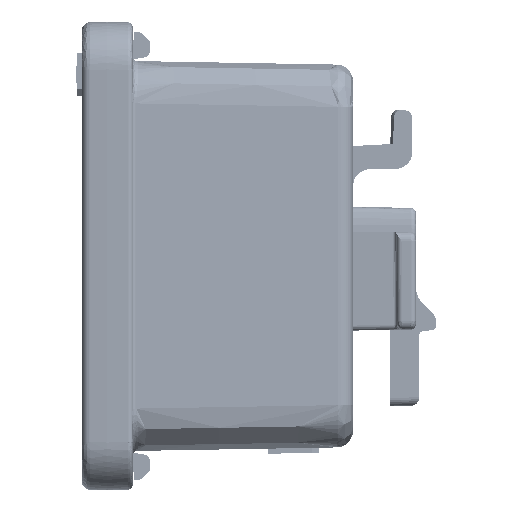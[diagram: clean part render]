
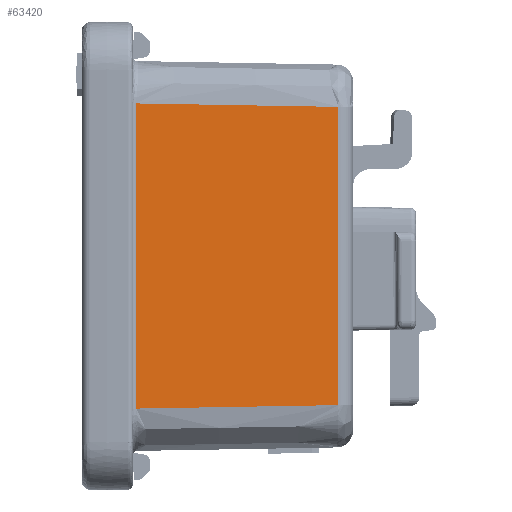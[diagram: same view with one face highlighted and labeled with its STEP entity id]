
A CAD part, left-side view. The second image highlights one B-rep face of the part: STEP entity #63420.
In plain terms, the highlighted cylindrical face has radius 111.466 mm (diameter 222.932 mm), a partial arc.
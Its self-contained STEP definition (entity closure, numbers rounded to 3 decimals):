
#2899 = CARTESIAN_POINT ( 'NONE',  ( -86.426, 0.86, 8.794 ) ) ;
#5100 = EDGE_CURVE ( 'NONE', #130333, #72418, #93645, .T. ) ;
#5425 = FACE_OUTER_BOUND ( 'NONE', #126768, .T. ) ;
#6015 = B_SPLINE_CURVE_WITH_KNOTS ( 'NONE', 3,
 ( #157757, #143882, #132660, #109123 ),
 .UNSPECIFIED., .F., .F.,
 ( 4, 4 ),
 ( 0., 1. ),
 .UNSPECIFIED. ) ;
#9224 = CARTESIAN_POINT ( 'NONE',  ( -86.426, 0.86, -8.794 ) ) ;
#17514 = CARTESIAN_POINT ( 'NONE',  ( -87.457, 12.778, -8.997 ) ) ;
#19109 = LINE ( 'NONE', #120733, #95651 ) ;
#20984 = DIRECTION ( 'NONE',  ( 0., 0., 1. ) ) ;
#28385 = CARTESIAN_POINT ( 'NONE',  ( -87.457, 12.778, -8.997 ) ) ;
#29973 = CARTESIAN_POINT ( 'NONE',  ( -86.982, 4.811, -8.862 ) ) ;
#38194 = EDGE_CURVE ( 'NONE', #130195, #130333, #103993, .T. ) ;
#39338 = DIRECTION ( 'NONE',  ( 0., 0., 1. ) ) ;
#39854 = CARTESIAN_POINT ( 'NONE',  ( 23.949, 16.419, -8.4 ) ) ;
#40384 = DIRECTION ( 'NONE',  ( 1., 0., 0. ) ) ;
#42237 = CARTESIAN_POINT ( 'NONE',  ( -87.327, 8.791, -8.929 ) ) ;
#49205 = VERTEX_POINT ( 'NONE', #113780 ) ;
#55242 = EDGE_CURVE ( 'NONE', #130195, #49205, #19109, .T. ) ;
#55605 = CARTESIAN_POINT ( 'NONE',  ( -86.426, 0.86, -8.794 ) ) ;
#56000 = ORIENTED_EDGE ( 'NONE', *, *, #5100, .T. ) ;
#58134 = ORIENTED_EDGE ( 'NONE', *, *, #123375, .T. ) ;
#61548 = AXIS2_PLACEMENT_3D ( 'NONE', #39854, #39338, #40384 ) ;
#63420 = ADVANCED_FACE ( 'NONE', ( #5425 ), #156452, .T. ) ;
#72418 = VERTEX_POINT ( 'NONE', #2899 ) ;
#74313 = DIRECTION ( 'NONE',  ( 0., 0., 1. ) ) ;
#75449 = ORIENTED_EDGE ( 'NONE', *, *, #38194, .T. ) ;
#83687 = CARTESIAN_POINT ( 'NONE',  ( -86.426, 0.86, -8.794 ) ) ;
#93645 = LINE ( 'NONE', #9224, #135599 ) ;
#95651 = VECTOR ( 'NONE', #74313, 1000. ) ;
#103993 = B_SPLINE_CURVE_WITH_KNOTS ( 'NONE', 3,
 ( #28385, #42237, #29973, #55605 ),
 .UNSPECIFIED., .F., .F.,
 ( 4, 4 ),
 ( 0., 1. ),
 .UNSPECIFIED. ) ;
#109123 = CARTESIAN_POINT ( 'NONE',  ( -87.457, 12.778, 8.997 ) ) ;
#113780 = CARTESIAN_POINT ( 'NONE',  ( -87.457, 12.778, 8.997 ) ) ;
#120733 = CARTESIAN_POINT ( 'NONE',  ( -87.457, 12.778, -8.997 ) ) ;
#123059 = ORIENTED_EDGE ( 'NONE', *, *, #55242, .F. ) ;
#123375 = EDGE_CURVE ( 'NONE', #72418, #49205, #6015, .T. ) ;
#126768 = EDGE_LOOP ( 'NONE', ( #56000, #58134, #123059, #75449 ) ) ;
#130195 = VERTEX_POINT ( 'NONE', #17514 ) ;
#130333 = VERTEX_POINT ( 'NONE', #83687 ) ;
#132660 = CARTESIAN_POINT ( 'NONE',  ( -87.327, 8.791, 8.929 ) ) ;
#135599 = VECTOR ( 'NONE', #20984, 1000. ) ;
#143882 = CARTESIAN_POINT ( 'NONE',  ( -86.982, 4.811, 8.862 ) ) ;
#156452 = CYLINDRICAL_SURFACE ( 'NONE', #61548, 111.466 ) ;
#157757 = CARTESIAN_POINT ( 'NONE',  ( -86.426, 0.86, 8.794 ) ) ;
